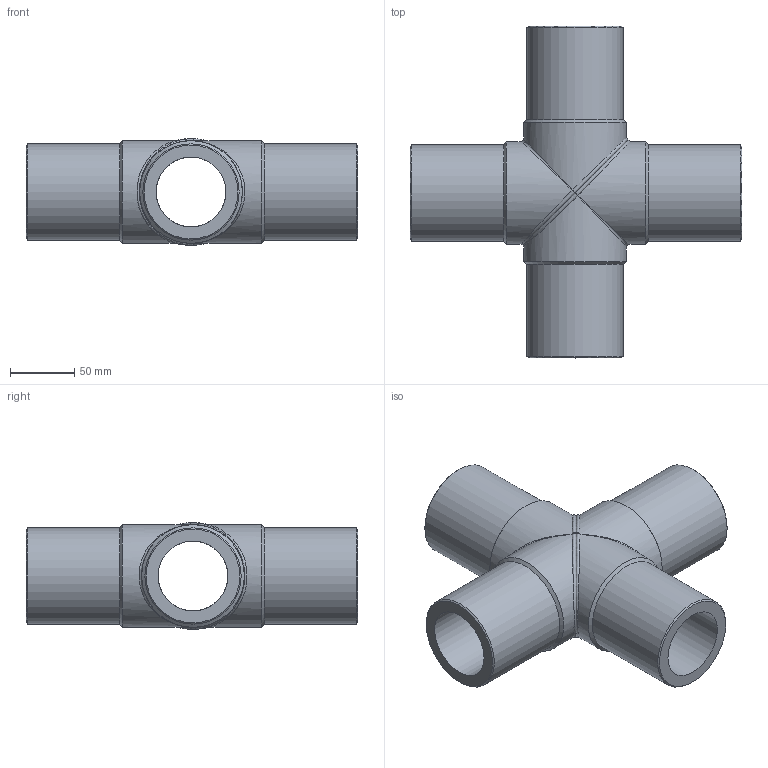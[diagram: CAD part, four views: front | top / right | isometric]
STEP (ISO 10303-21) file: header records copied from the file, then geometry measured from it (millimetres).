
FILE_DESCRIPTION(/* description */ ('Unknown'),/* implementation_level */ '2;1');
FILE_NAME(/* name */ 'CRP075H',/* time_stamp */ '2022-07-08T12:41:20+02:00',/* author */ ('Unknown'),/* organization */ ('Unknown'),/* preprocessor_version */ 'ST-DEVELOPER v18.102',/* originating_system */ 'Solid Edge',/* authorisation */ 'Unknown');
FILE_SCHEMA (('AUTOMOTIVE_DESIGN {1 0 10303 214 3 1 1}'));
Length unit declared in the file: millimetre
Products named in the file (3): CRP075H; CRP075H_mir
Assembly tree (2 placements, depth 2):
  CRP075H
    CRP075H
    CRP075H_mir
Bounding box: 258.5 x 258.5 x 82.99 mm (x, y, z)
Volume: 983799.4 mm3; surface area: 193334.6 mm2
Topology: 2 solids, 2 shells, 32 faces, 128 edges, 98 vertices
Faces by surface type: cylinder 12, cone 8, plane 6, bspline 6
Full cylindrical faces by diameter (mm): 54.4 x4, 75 x4, 80 x4
Entity records: 2969 total; most frequent: CARTESIAN_POINT 2051, ORIENTED_EDGE 196, DIRECTION 126, EDGE_CURVE 98, VERTEX_POINT 88, B_SPLINE_CURVE_WITH_KNOTS 64, AXIS2_PLACEMENT_3D 63, EDGE_LOOP 58
